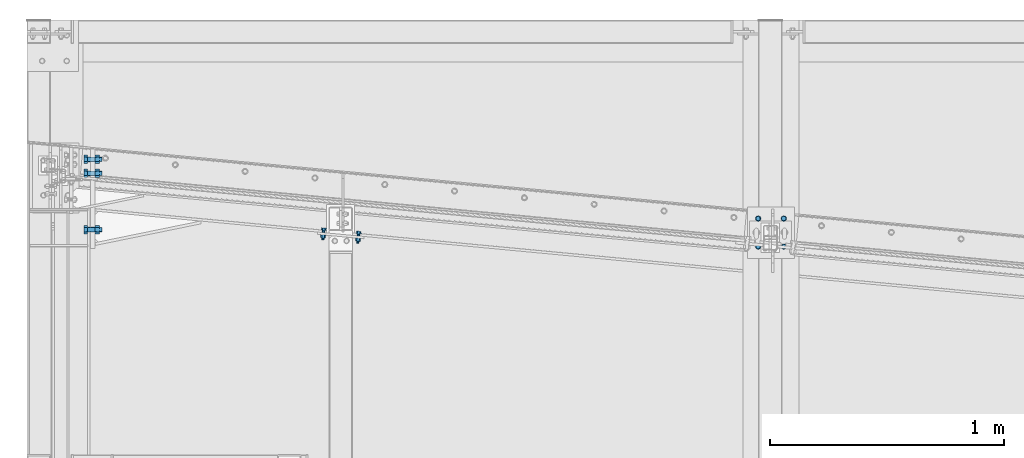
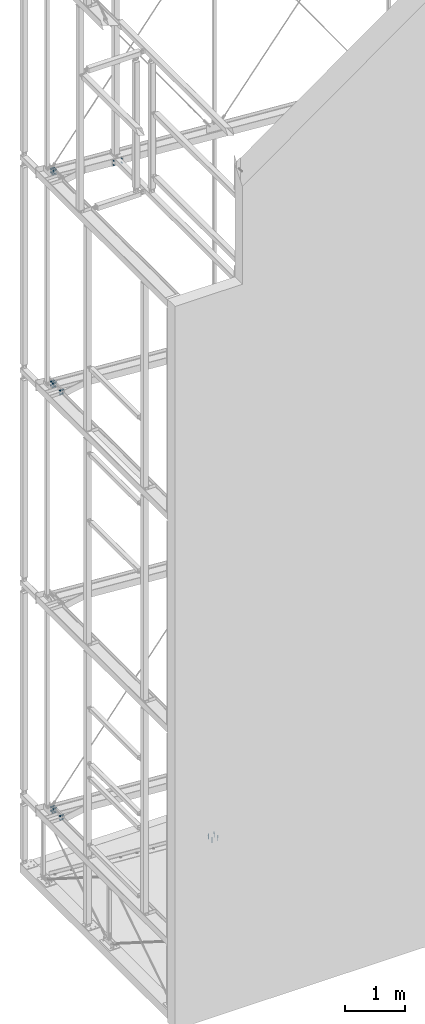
# One storey, part 221 of 271: 7 mechanical fasteners, 5 elements without a shape of their own.
"""IFC2X3 building model written with IfcOpenShell, lengths in millimetres."""

from ifc_helpers import new_model, si_unit, frame, origin_with_axes, origin_2d_with_axis, place, context, subcontext, project, spatial, polyline, circle, outline, extrude, source, transform, mapped, material, type_object, element, aggregate, save


model = new_model("IFC2X3")

# Units and contexts
model_context = context("Model", 3, precision=1e-05, world=origin_with_axes())
body_context = subcontext(model_context, "Body", "Model", "MODEL_VIEW")
ifc_project = project(units=[si_unit("LENGTHUNIT", "METRE", prefix="MILLI"), si_unit("AREAUNIT", "SQUARE_METRE"), si_unit("VOLUMEUNIT", "CUBIC_METRE"), si_unit("MASSUNIT", "GRAM", prefix="KILO"), si_unit("TIMEUNIT", "SECOND"), si_unit("PLANEANGLEUNIT", "RADIAN"), si_unit("SOLIDANGLEUNIT", "STERADIAN"), si_unit("THERMODYNAMICTEMPERATUREUNIT", "DEGREE_CELSIUS"), si_unit("LUMINOUSINTENSITYUNIT", "LUMEN")], contexts=[model_context])

# Site, building, storey
site_placement = place(None, origin_with_axes())
site = spatial("IfcSite", under=ifc_project, at=site_placement, Name="Undefined", CompositionType="ELEMENT")
building_placement = place(site_placement, origin_with_axes())
building = spatial("IfcBuilding", under=site, at=building_placement, Name="Undefined", CompositionType="ELEMENT")
storey_placement = place(building_placement, origin_with_axes())
storey = spatial("IfcBuildingStorey", under=building, at=storey_placement, Name="Undefined", CompositionType="ELEMENT", Elevation=0.0)

# Assembly, mechanical fastener
assembly_1_placement = place(storey_placement, origin_with_axes())
assembly_1 = element("IfcElementAssembly", 1, at=assembly_1_placement, inside=storey, AssemblyPlace="NOTDEFINED", PredefinedType="REINFORCEMENT_UNIT")
ifc_material = material(Name="Undefined")
mechanical_fastener_type = type_object("IfcMechanicalFastenerType", Name="Bolt assembly")
shared_shape_1 = source(origin_with_axes(), body_context, "Body", "SweptSolid", [
    extrude(circle(Radius=7.0, at=origin_2d_with_axis()), frame((0.0, 0.0, 0.0), z_axis=(0.0, 1.0, 0.0), x_axis=(1.0, 0.0, 0.0)), (0.0, 0.0, 1.0), 16.1),
    extrude(outline(polyline([(10.39230484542, 0.0), (5.19615242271, 9.00000000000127), (-5.19615242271, 9.00000000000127), (-10.39230484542, 0.0), (-5.19615242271, -9.00000000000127), (5.19615242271, -9.00000000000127), (10.39230484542, 0.0)])), frame((0.0, -7.5, 0.0), z_axis=(0.0, 1.0, 0.0), x_axis=(1.0, 0.0, 0.0)), (0.0, 0.0, 1.0), 7.5),
    extrude(circle(Radius=6.0, at=origin_2d_with_axis()), frame((0.0, 0.0, 0.0), z_axis=(0.0, 1.0, 0.0), x_axis=(1.0, 0.0, 0.0)), (0.0, 0.0, 1.0), 100.0),
    extrude(circle(Radius=12.0, at=origin_2d_with_axis()), frame((0.0, 16.0, 0.0), z_axis=(0.0, 1.0, 0.0), x_axis=(1.0, 0.0, 0.0)), (0.0, 0.0, 1.0), 2.5),
    extrude(outline(polyline([(10.96965511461, 0.0), (5.484827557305, 9.50000000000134), (-5.484827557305, 9.50000000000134), (-10.96965511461, 0.0), (-5.484827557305, -9.50000000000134), (5.484827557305, -9.50000000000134), (10.96965511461, 0.0)])), frame((0.0, 18.5, 0.0), z_axis=(0.0, 1.0, 0.0), x_axis=(1.0, 0.0, 0.0)), (0.0, 0.0, 1.0), 10.0),
])
mechanical_fastener_1_placement = place(assembly_1_placement, frame((3170.9999999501, 4110.0, 0.0), z_axis=(1.0, 0.0, 0.0), x_axis=(0.0, -1.0, 0.0)))
mechanical_fastener_1 = element("IfcMechanicalFastener", 2, at=mechanical_fastener_1_placement, type_object=mechanical_fastener_type, material=ifc_material, Name="Bolt assembly", NominalDiameter=12.0, NominalLength=100.0, context=body_context, shape_type="MappedRepresentation", body=[
    mapped(shared_shape_1, transform((0.0, 0.0, -55.0))),
    mapped(shared_shape_1, transform((120.0, 0.0, -55.0))),
    mapped(shared_shape_1, transform((0.0, 0.0, 55.0))),
    mapped(shared_shape_1, transform((120.0, 0.0, 55.0))),
])
aggregate(assembly_1, [mechanical_fastener_1])

assembly_2_placement = place(storey_placement, origin_with_axes())
assembly_2 = element("IfcElementAssembly", 3, at=assembly_2_placement, inside=storey, AssemblyPlace="NOTDEFINED", PredefinedType="RIGID_FRAME")
shared_shape_2 = source(origin_with_axes(), body_context, "Body", "SweptSolid", [
    extrude(circle(Radius=6.5, at=origin_2d_with_axis()), frame((0.0, -20.0999998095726, 0.0), z_axis=(0.0, 1.0, 0.0), x_axis=(1.0, 0.0, 0.0)), (0.0, 0.0, 1.0), 10.2),
    extrude(circle(Radius=6.5, at=origin_2d_with_axis()), frame((0.0, -10.1, 0.0), z_axis=(0.0, 1.0, 0.0), x_axis=(1.0, 0.0, 0.0)), (0.0, 0.0, 1.0), 10.1),
    extrude(outline(polyline([(10.39230484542, 0.0), (5.19615242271, 9.00000000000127), (-5.19615242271, 9.00000000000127), (-10.39230484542, 0.0), (-5.19615242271, -9.00000000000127), (5.19615242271, -9.00000000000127), (10.39230484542, 0.0)])), frame((0.0, -30.1999998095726, 0.0), z_axis=(0.0, 1.0, 0.0), x_axis=(1.0, 0.0, 0.0)), (0.0, 0.0, 1.0), 7.5),
    extrude(circle(Radius=6.0, at=origin_2d_with_axis()), frame((0.0, -22.6999998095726, 0.0), z_axis=(0.0, 1.0, 0.0), x_axis=(1.0, 0.0, 0.0)), (0.0, 0.0, 1.0), 45.0),
    extrude(circle(Radius=12.0, at=origin_2d_with_axis()), frame((0.0, -22.6999998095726, 0.0), z_axis=(0.0, 1.0, 0.0), x_axis=(1.0, 0.0, 0.0)), (0.0, 0.0, 1.0), 2.5),
    extrude(circle(Radius=12.0, at=origin_2d_with_axis()), frame((0.0, 0.0, 0.0), z_axis=(0.0, 1.0, 0.0), x_axis=(1.0, 0.0, 0.0)), (0.0, 0.0, 1.0), 2.5),
    extrude(outline(polyline([(10.96965511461, 0.0), (5.484827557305, 9.50000000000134), (-5.484827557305, 9.50000000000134), (-10.96965511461, 0.0), (-5.484827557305, -9.50000000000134), (5.484827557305, -9.50000000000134), (10.96965511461, 0.0)])), frame((0.0, 2.50000000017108, 0.0), z_axis=(0.0, 1.0, 0.0), x_axis=(1.0, 0.0, 0.0)), (0.0, 0.0, 1.0), 10.0),
])
mechanical_fastener_2_placement = place(assembly_2_placement, frame((1280.37568709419, 4037.39379011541, 14341.8499999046), z_axis=(0.0, 0.0, -1.0), x_axis=(0.995579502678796, -0.0939225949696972, 0.0)))
mechanical_fastener_2 = element("IfcMechanicalFastener", 4, at=mechanical_fastener_2_placement, type_object=mechanical_fastener_type, material=ifc_material, Name="Bolt assembly", NominalDiameter=12.0, NominalLength=45.0, context=body_context, shape_type="MappedRepresentation", body=[
    mapped(shared_shape_2, transform((-24.7779941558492, 2.27373675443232e-12, -24.5))),
    mapped(shared_shape_2, transform((-24.7779941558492, 2.27373675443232e-12, 60.5))),
    mapped(shared_shape_2, transform((125.222007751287, -1.09139364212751e-11, -24.5))),
    mapped(shared_shape_2, transform((125.222007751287, -1.09139364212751e-11, 60.5))),
])
aggregate(assembly_2, [mechanical_fastener_2])

assembly_3_placement = place(storey_placement, origin_with_axes())
assembly_3 = element("IfcElementAssembly", 5, at=assembly_3_placement, inside=storey, AssemblyPlace="NOTDEFINED", PredefinedType="RIGID_FRAME")
shared_shape_3 = source(origin_with_axes(), body_context, "Body", "SweptSolid", [
    extrude(circle(Radius=11.0, at=origin_2d_with_axis()), frame((0.0, -19.8999999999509, 0.0), z_axis=(0.0, 1.0, 0.0), x_axis=(1.0, 0.0, 0.0)), (0.0, 0.0, 1.0), 10.2),
    extrude(circle(Radius=11.0, at=origin_2d_with_axis()), frame((0.0, -8.90000018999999, 0.0), z_axis=(0.0, 1.0, 0.0), x_axis=(1.0, 0.0, 0.0)), (0.0, 0.0, 1.0), 20.1),
    extrude(outline(polyline([(18.47520861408, 0.0), (9.23760430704, 16.0000000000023), (-9.23760430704, 16.0000000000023), (-18.47520861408, 0.0), (-9.23760430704, -16.0000000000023), (9.23760430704, -16.0000000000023), (18.47520861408, 0.0)])), frame((0.0, -37.0000000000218, 0.0), z_axis=(0.0, 1.0, 0.0), x_axis=(1.0, 0.0, 0.0)), (0.0, 0.0, 1.0), 13.0),
    extrude(circle(Radius=10.0, at=origin_2d_with_axis()), frame((0.0, -24.0000000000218, 0.0), z_axis=(0.0, 1.0, 0.0), x_axis=(1.0, 0.0, 0.0)), (0.0, 0.0, 1.0), 65.0),
    extrude(circle(Radius=18.5, at=origin_2d_with_axis()), frame((0.0, -24.0000000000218, 0.0), z_axis=(0.0, 1.0, 0.0), x_axis=(1.0, 0.0, 0.0)), (0.0, 0.0, 1.0), 4.0),
    extrude(circle(Radius=18.5, at=origin_2d_with_axis()), frame((0.0, 11.19999981, 0.0), z_axis=(0.0, 1.0, 0.0), x_axis=(1.0, 0.0, 0.0)), (0.0, 0.0, 1.0), 4.0),
    extrude(outline(polyline([(18.47520861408, 0.0), (9.23760430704, 16.0000000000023), (-9.23760430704, 16.0000000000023), (-18.47520861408, 0.0), (-9.23760430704, -16.0000000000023), (9.23760430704, -16.0000000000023), (18.47520861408, 0.0)])), frame((0.0, 15.19999981, 0.0), z_axis=(0.0, 1.0, 0.0), x_axis=(1.0, 0.0, 0.0)), (0.0, 0.0, 1.0), 16.0),
])
mechanical_fastener_3_placement = place(assembly_3_placement, frame((268.175687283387, 4363.0709877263, 14324.3499999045), z_axis=(0.0, 0.0, 1.0), x_axis=(0.0, -1.0, 0.0)))
mechanical_fastener_3 = element("IfcMechanicalFastener", 6, at=mechanical_fastener_3_placement, type_object=mechanical_fastener_type, material=ifc_material, Name="Bolt assembly", NominalDiameter=20.0, NominalLength=65.0, context=body_context, shape_type="MappedRepresentation", body=[
    mapped(shared_shape_3, transform((0.0, 0.0, -37.5))),
    mapped(shared_shape_3, transform((0.0, 0.0, 37.5))),
    mapped(shared_shape_3, transform((60.0, 0.0, -37.5))),
    mapped(shared_shape_3, transform((60.0, 0.0, 37.5))),
])
aggregate(assembly_3, [mechanical_fastener_3])

# Assembly, mechanical fasteners
assembly_4_placement = place(storey_placement, origin_with_axes())
assembly_4 = element("IfcElementAssembly", 7, at=assembly_4_placement, inside=storey, AssemblyPlace="NOTDEFINED", PredefinedType="RIGID_FRAME")
mechanical_fastener_4_placement = place(assembly_4_placement, frame((268.175687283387, 4062.62364236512, 10004.3499999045), z_axis=(0.0, 0.0, -1.0), x_axis=(0.0, 1.0, 0.0)))
mechanical_fastener_4 = element("IfcMechanicalFastener", 8, at=mechanical_fastener_4_placement, type_object=mechanical_fastener_type, material=ifc_material, Name="Bolt assembly", NominalDiameter=20.0, NominalLength=65.0, context=body_context, shape_type="MappedRepresentation", body=[
    mapped(shared_shape_3, transform((0.0, 0.0, -37.5))),
    mapped(shared_shape_3, transform((0.0, 0.0, 37.5))),
])
mechanical_fastener_5_placement = place(assembly_4_placement, frame((268.175687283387, 4363.0709877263, 10004.3499999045), z_axis=(0.0, 0.0, 1.0), x_axis=(0.0, -1.0, 0.0)))
mechanical_fastener_5 = element("IfcMechanicalFastener", 9, at=mechanical_fastener_5_placement, type_object=mechanical_fastener_type, material=ifc_material, Name="Bolt assembly", NominalDiameter=20.0, NominalLength=65.0, context=body_context, shape_type="MappedRepresentation", body=[
    mapped(shared_shape_3, transform((0.0, 0.0, -37.5))),
    mapped(shared_shape_3, transform((0.0, 0.0, 37.5))),
    mapped(shared_shape_3, transform((60.0, 0.0, -37.5))),
    mapped(shared_shape_3, transform((60.0, 0.0, 37.5))),
])
aggregate(assembly_4, [mechanical_fastener_4, mechanical_fastener_5])

assembly_5_placement = place(storey_placement, origin_with_axes())
assembly_5 = element("IfcElementAssembly", 10, at=assembly_5_placement, inside=storey, AssemblyPlace="NOTDEFINED", PredefinedType="RIGID_FRAME")
mechanical_fastener_6_placement = place(assembly_5_placement, frame((268.175687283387, 4062.62364236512, 1364.34999990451), z_axis=(0.0, 0.0, -1.0), x_axis=(0.0, 1.0, 0.0)))
mechanical_fastener_6 = element("IfcMechanicalFastener", 11, at=mechanical_fastener_6_placement, type_object=mechanical_fastener_type, material=ifc_material, Name="Bolt assembly", NominalDiameter=20.0, NominalLength=65.0, context=body_context, shape_type="MappedRepresentation", body=[
    mapped(shared_shape_3, transform((0.0, 0.0, -37.5))),
    mapped(shared_shape_3, transform((0.0, 0.0, 37.5))),
])
mechanical_fastener_7_placement = place(assembly_5_placement, frame((268.175687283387, 4363.0709877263, 1364.34999990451), z_axis=(0.0, 0.0, 1.0), x_axis=(0.0, -1.0, 0.0)))
mechanical_fastener_7 = element("IfcMechanicalFastener", 12, at=mechanical_fastener_7_placement, type_object=mechanical_fastener_type, material=ifc_material, Name="Bolt assembly", NominalDiameter=20.0, NominalLength=65.0, context=body_context, shape_type="MappedRepresentation", body=[
    mapped(shared_shape_3, transform((0.0, 0.0, -37.5))),
    mapped(shared_shape_3, transform((0.0, 0.0, 37.5))),
    mapped(shared_shape_3, transform((60.0, 0.0, -37.5))),
    mapped(shared_shape_3, transform((60.0, 0.0, 37.5))),
])
aggregate(assembly_5, [mechanical_fastener_6, mechanical_fastener_7])

save(model, "model.ifc")
